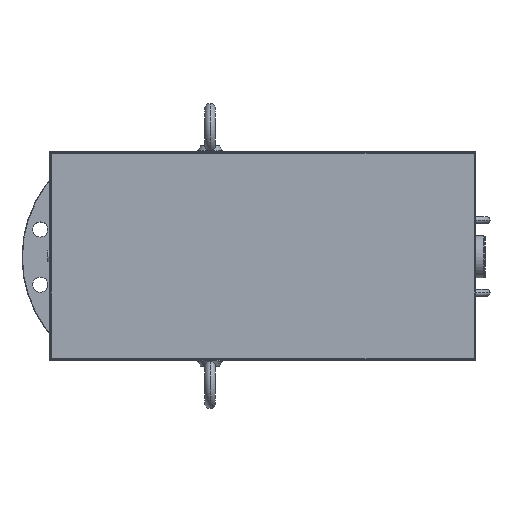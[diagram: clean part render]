
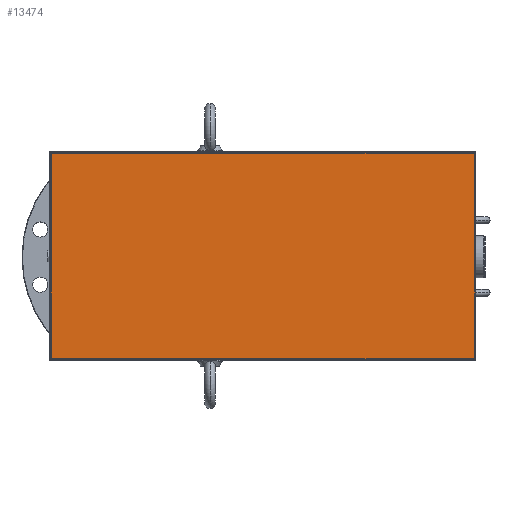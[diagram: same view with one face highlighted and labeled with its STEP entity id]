
A CAD part, top view. The second image highlights one B-rep face of the part: STEP entity #13474.
In plain terms, the highlighted planar face has unit normal (0, 0, 1).
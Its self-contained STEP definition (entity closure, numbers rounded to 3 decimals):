
#13435=CARTESIAN_POINT('',(143.,-130.5,21.5));
#13436=DIRECTION('',(0.,-1.,0.));
#13437=DIRECTION('',(-0.,0.,1.));
#13438=AXIS2_PLACEMENT_3D('',#13435,#13437,#13436);
#13439=PLANE('',#13438);
#13440=CARTESIAN_POINT('',(-111.5,124.,21.5));
#13441=VERTEX_POINT('',#13440);
#13442=CARTESIAN_POINT('',(-111.5,-124.,21.5));
#13443=VERTEX_POINT('',#13442);
#13444=CARTESIAN_POINT('',(-111.5,124.,21.5));
#13445=DIRECTION('',(0.,-1.,0.));
#13446=VECTOR('',#13445,248.);
#13447=LINE('',#13444,#13446);
#13448=EDGE_CURVE('',#13441,#13443,#13447,.T.);
#13449=ORIENTED_EDGE('E1016',*,*,#13448,.T.);
#13450=CARTESIAN_POINT('',(397.5,-124.,21.5));
#13451=VERTEX_POINT('',#13450);
#13452=CARTESIAN_POINT('',(-111.5,-124.,21.5));
#13453=DIRECTION('',(1.,0.,0.));
#13454=VECTOR('',#13453,509.);
#13455=LINE('',#13452,#13454);
#13456=EDGE_CURVE('',#13443,#13451,#13455,.T.);
#13457=ORIENTED_EDGE('E1017',*,*,#13456,.T.);
#13458=CARTESIAN_POINT('',(397.5,124.,21.5));
#13459=VERTEX_POINT('',#13458);
#13460=CARTESIAN_POINT('',(397.5,-124.,21.5));
#13461=DIRECTION('',(0.,1.,0.));
#13462=VECTOR('',#13461,248.);
#13463=LINE('',#13460,#13462);
#13464=EDGE_CURVE('',#13451,#13459,#13463,.T.);
#13465=ORIENTED_EDGE('E1018',*,*,#13464,.T.);
#13466=CARTESIAN_POINT('',(397.5,124.,21.5));
#13467=DIRECTION('',(-1.,0.,0.));
#13468=VECTOR('',#13467,509.);
#13469=LINE('',#13466,#13468);
#13470=EDGE_CURVE('',#13459,#13441,#13469,.T.);
#13471=ORIENTED_EDGE('E1019',*,*,#13470,.T.);
#13472=EDGE_LOOP('',(#13449,#13457,#13465,#13471));
#13473=FACE_OUTER_BOUND('',#13472,.T.);
#13474=ADVANCED_FACE('F429',(#13473),#13439,.T.);
